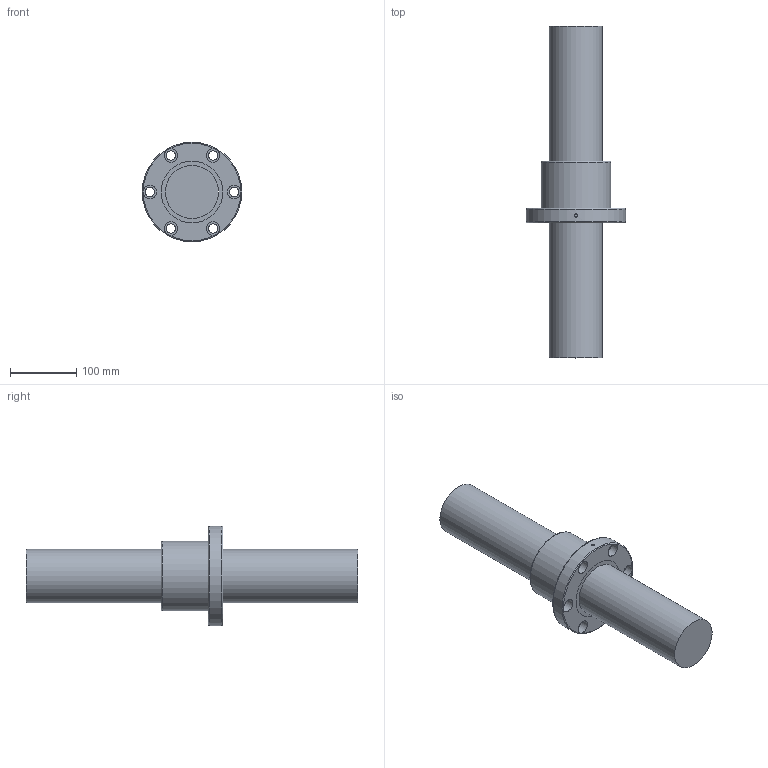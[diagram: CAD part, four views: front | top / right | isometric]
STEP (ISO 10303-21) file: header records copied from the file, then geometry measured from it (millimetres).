
FILE_DESCRIPTION(/* description */ (''),/* implementation_level */ '2;1');
FILE_NAME(/* name */ '80010.stp',/* time_stamp */ '2014-07-14T15:39:38+08:00',/* author */ (''),/* organization */ (''),/* preprocessor_version */ 'ST-DEVELOPER v11',/* originating_system */ 'SIEMENS UGS NX 6.0',/* authorisation */ '');
FILE_SCHEMA (('CONFIG_CONTROL_DESIGN'));
Length unit declared in the file: millimetre
Products named in the file (1): kcc27CCovkq
Bounding box: 150 x 500 x 150 mm (x, y, z)
Volume: 3015867.6 mm3; surface area: 236364.4 mm2
Topology: 4 solids, 4 shells, 44 faces, 78 edges, 51 vertices
Faces by surface type: cylinder 23, plane 18, torus 3
Full cylindrical faces by diameter (mm): 5 x1, 14 x6, 20 x6, 80 x4, 93 x4, 105 x1, 150 x1
Entity records: 1104 total; most frequent: CARTESIAN_POINT 200, DIRECTION 186, EDGE_LOOP 98, ORIENTED_EDGE 98, FACE_BOUND 95, AXIS2_PLACEMENT_3D 93, VERTEX_POINT 49, EDGE_CURVE 49
